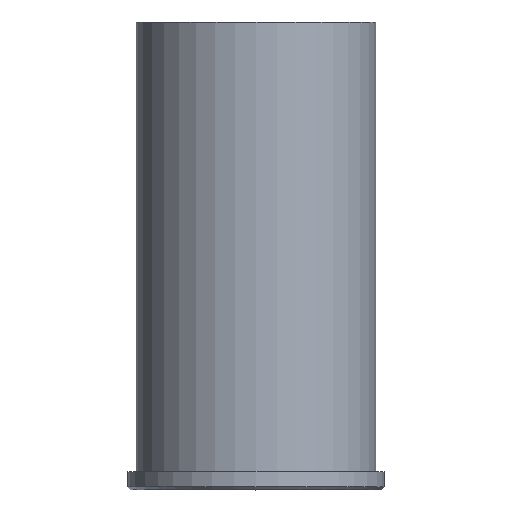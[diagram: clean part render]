
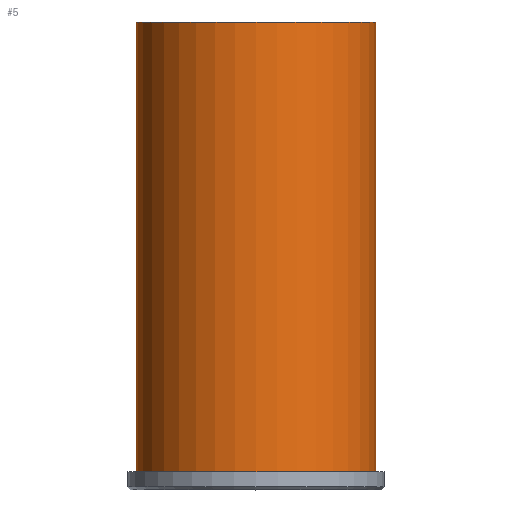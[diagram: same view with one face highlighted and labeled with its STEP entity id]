
A CAD part, top view. The second image highlights one B-rep face of the part: STEP entity #5.
In plain terms, the highlighted cylindrical face has radius 31.756 mm (diameter 63.513 mm), a partial arc.
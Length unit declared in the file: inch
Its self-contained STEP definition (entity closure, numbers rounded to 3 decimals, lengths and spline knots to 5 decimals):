
#1 = EDGE_CURVE ( 'NONE', #4, #421, #423, .T. ) ;
#2 = EDGE_LOOP ( 'NONE', ( #3, #472, #470, #21 ) ) ;
#3 = ORIENTED_EDGE ( 'NONE', *, *, #1, .T. ) ;
#4 = VERTEX_POINT ( 'NONE', #434 ) ;
#5 = ADVANCED_FACE ( 'NONE', ( #424 ), #436, .T. ) ;
#20 = VERTEX_POINT ( 'NONE', #457 ) ;
#21 = ORIENTED_EDGE ( 'NONE', *, *, #22, .F. ) ;
#22 = EDGE_CURVE ( 'NONE', #4, #20, #446, .T. ) ;
#23 = EDGE_CURVE ( 'NONE', #20, #419, #462, .T. ) ;
#170 = CARTESIAN_POINT ( 'NONE',  ( -1.25025, 4.875, 0. ) ) ;
#171 = CARTESIAN_POINT ( 'NONE',  ( -1.25025, 0.1875, 0. ) ) ;
#214 = LINE ( 'NONE', #217, #228 ) ;
#217 = CARTESIAN_POINT ( 'NONE',  ( -1.25025, -39.37008, 0. ) ) ;
#227 = DIRECTION ( 'NONE',  ( 0., -1., 0. ) ) ;
#228 = VECTOR ( 'NONE', #227, 39.37008 ) ;
#407 = CARTESIAN_POINT ( 'NONE',  ( 0., 4.875, 0. ) ) ;
#412 = DIRECTION ( 'NONE',  ( 0., -1., 0. ) ) ;
#413 = DIRECTION ( 'NONE',  ( 1., 0., 0. ) ) ;
#419 = VERTEX_POINT ( 'NONE', #171 ) ;
#421 = VERTEX_POINT ( 'NONE', #170 ) ;
#422 = AXIS2_PLACEMENT_3D ( 'NONE', #407, #412, #413 ) ;
#423 = CIRCLE ( 'NONE', #422, 1.25025 ) ;
#424 = FACE_OUTER_BOUND ( 'NONE', #2, .T. ) ;
#430 = DIRECTION ( 'NONE',  ( 1., 0., 0. ) ) ;
#431 = DIRECTION ( 'NONE',  ( 0., -1., 0. ) ) ;
#432 = CARTESIAN_POINT ( 'NONE',  ( 0., -39.37008, 0. ) ) ;
#434 = CARTESIAN_POINT ( 'NONE',  ( 1.25025, 4.875, 0. ) ) ;
#435 = AXIS2_PLACEMENT_3D ( 'NONE', #432, #431, #430 ) ;
#436 = CYLINDRICAL_SURFACE ( 'NONE', #435, 1.25025 ) ;
#443 = DIRECTION ( 'NONE',  ( 0., -1., 0. ) ) ;
#444 = VECTOR ( 'NONE', #443, 39.37008 ) ;
#445 = CARTESIAN_POINT ( 'NONE',  ( 1.25025, -39.37008, 0. ) ) ;
#446 = LINE ( 'NONE', #445, #444 ) ;
#457 = CARTESIAN_POINT ( 'NONE',  ( 1.25025, 0.1875, 0. ) ) ;
#460 = CARTESIAN_POINT ( 'NONE',  ( 0., 0.1875, 0. ) ) ;
#461 = AXIS2_PLACEMENT_3D ( 'NONE', #460, #464, #463 ) ;
#462 = CIRCLE ( 'NONE', #461, 1.25025 ) ;
#463 = DIRECTION ( 'NONE',  ( 1., 0., 0. ) ) ;
#464 = DIRECTION ( 'NONE',  ( 0., -1., 0. ) ) ;
#470 = ORIENTED_EDGE ( 'NONE', *, *, #23, .F. ) ;
#471 = EDGE_CURVE ( 'NONE', #421, #419, #214, .T. ) ;
#472 = ORIENTED_EDGE ( 'NONE', *, *, #471, .T. ) ;
